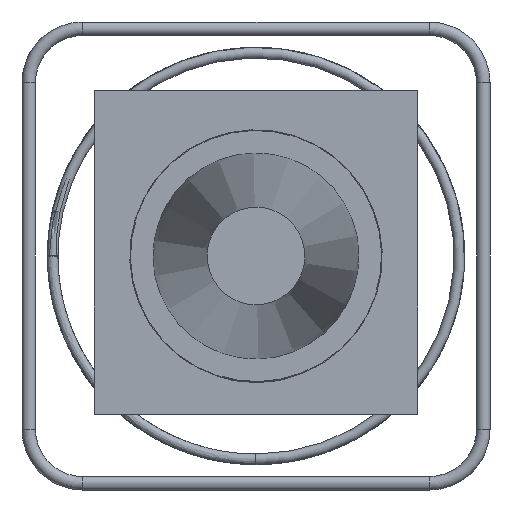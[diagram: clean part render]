
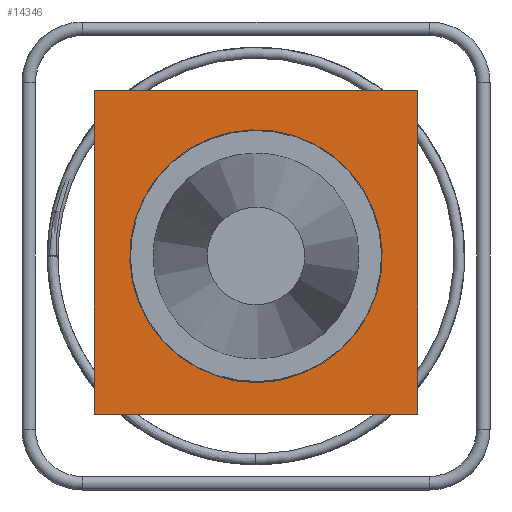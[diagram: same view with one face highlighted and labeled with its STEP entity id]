
A CAD part, left-side view. The second image highlights one B-rep face of the part: STEP entity #14346.
In plain terms, the highlighted planar face has unit normal (-1, 0, 0).
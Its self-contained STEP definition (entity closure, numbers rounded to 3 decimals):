
#1465=PLANE('',#15076);
#2371=LINE('',#39494,#3287);
#2375=LINE('',#39501,#3291);
#2378=LINE('',#39506,#3294);
#2381=LINE('',#39510,#3297);
#3287=VECTOR('',#17408,480.);
#3291=VECTOR('',#17414,480.);
#3294=VECTOR('',#17419,480.);
#3297=VECTOR('',#17424,480.);
#3539=FACE_BOUND('',#5304,.T.);
#4362=FACE_OUTER_BOUND('',#5303,.T.);
#5303=EDGE_LOOP('',(#13209,#13210,#13211,#13212));
#5304=EDGE_LOOP('',(#13213));
#5682=CIRCLE('',#15000,187.5);
#7075=VERTEX_POINT('',#34172);
#7108=VERTEX_POINT('',#39492);
#7109=VERTEX_POINT('',#39493);
#7111=VERTEX_POINT('',#39500);
#7112=VERTEX_POINT('',#39505);
#9119=EDGE_CURVE('',#7075,#7075,#5682,.T.);
#9154=EDGE_CURVE('',#7108,#7109,#2371,.T.);
#9158=EDGE_CURVE('',#7109,#7111,#2375,.T.);
#9161=EDGE_CURVE('',#7111,#7112,#2378,.T.);
#9164=EDGE_CURVE('',#7112,#7108,#2381,.T.);
#13209=ORIENTED_EDGE('',*,*,#9164,.T.);
#13210=ORIENTED_EDGE('',*,*,#9154,.T.);
#13211=ORIENTED_EDGE('',*,*,#9158,.T.);
#13212=ORIENTED_EDGE('',*,*,#9161,.T.);
#13213=ORIENTED_EDGE('',*,*,#9119,.T.);
#14346=ADVANCED_FACE('',(#4362,#3539),#1465,.T.);
#15000=AXIS2_PLACEMENT_3D('',#34173,#17256,#17257);
#15076=AXIS2_PLACEMENT_3D('',#39512,#17426,#17427);
#17256=DIRECTION('center_axis',(1.,0.,0.));
#17257=DIRECTION('ref_axis',(0.,0.999,-0.048));
#17408=DIRECTION('',(0.,0.,-1.));
#17414=DIRECTION('',(0.,-1.,0.));
#17419=DIRECTION('',(0.,0.,1.));
#17424=DIRECTION('',(0.,1.,0.));
#17426=DIRECTION('center_axis',(-1.,0.,0.));
#17427=DIRECTION('ref_axis',(0.,0.,-1.));
#34172=CARTESIAN_POINT('',(-112.151,187.287,-8.94));
#34173=CARTESIAN_POINT('Origin',(-112.151,0.,
0.));
#39492=CARTESIAN_POINT('',(-112.151,240.,245.253));
#39493=CARTESIAN_POINT('',(-112.151,240.,-234.747));
#39494=CARTESIAN_POINT('',(-112.151,240.,245.253));
#39500=CARTESIAN_POINT('',(-112.151,-240.,-234.747));
#39501=CARTESIAN_POINT('',(-112.151,240.,-234.747));
#39505=CARTESIAN_POINT('',(-112.151,-240.,245.253));
#39506=CARTESIAN_POINT('',(-112.151,-240.,-234.747));
#39510=CARTESIAN_POINT('',(-112.151,-240.,245.253));
#39512=CARTESIAN_POINT('Origin',(-112.151,0.,
5.253));
